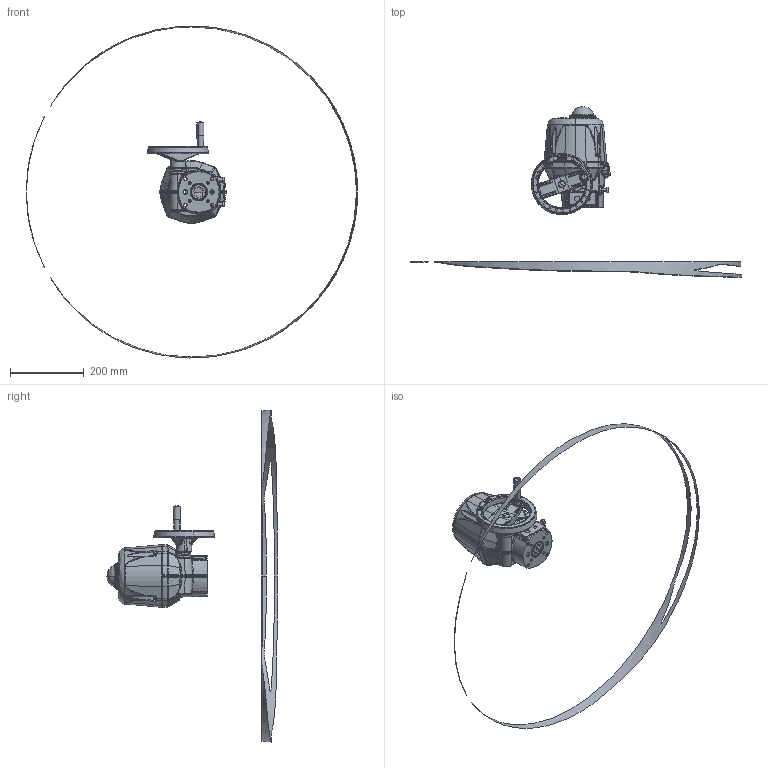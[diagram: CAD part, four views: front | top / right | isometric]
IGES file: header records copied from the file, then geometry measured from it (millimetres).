
Start section: SolidWorks IGES file using analytic representation for surfaces
Global section: file name: S:\Assemblages 3D produits\01-Actionneurs électriques\DV300-90A-G00\Carter long\DV300-90A-G00.IGS; native system: SolidWorks 2017; preprocessor: SolidWorks 2017; author: caillatl; date: 211214.103933; units: millimetre
Bounding box: 899.26 x 462.65 x 900.57 mm (x, y, z)
Surface area: 305450.9 mm2 (no closed solid volume)
Topology: 0 solids, 0 shells, 1442 faces, 16493 edges, 16459 vertices
Faces by surface type: bspline 988, revolution 454
